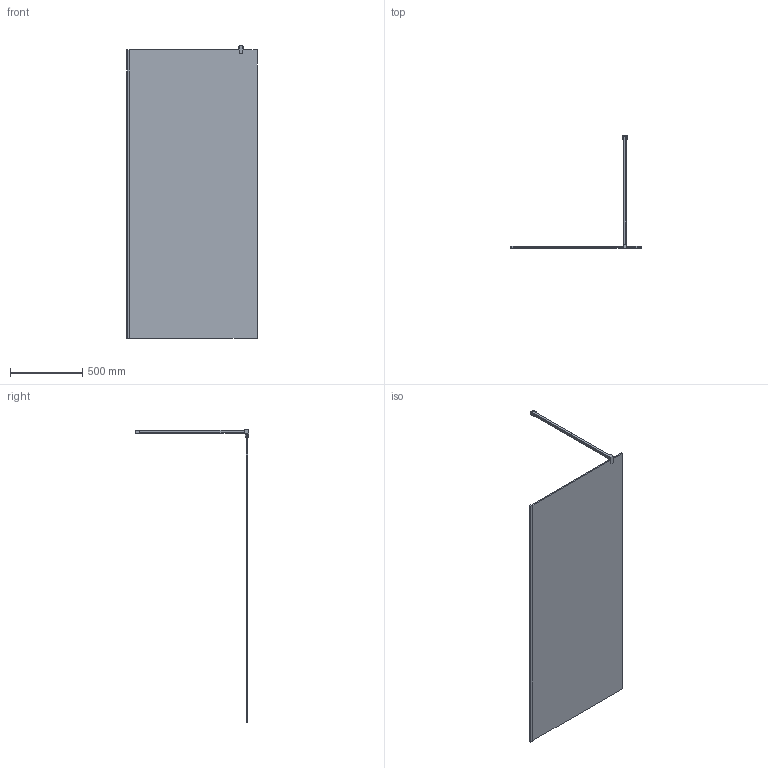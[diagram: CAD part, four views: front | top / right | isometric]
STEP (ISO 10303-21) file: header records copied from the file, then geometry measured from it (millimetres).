
FILE_DESCRIPTION(/* description */ (''),/* implementation_level */ '2;1');
FILE_NAME(/* name */ 'D:\17\ЭГ Перегородки\WALK-IN P008STB\WALK-IN P008STB левая модель\WALK-IN P008STB ЛЕВАЯ-3D.stp',/* time_stamp */ '2022-03-01T21:21:28+03:00',/* author */ ('User'),/* organization */ (''),/* preprocessor_version */ 'ST-DEVELOPER v15.2',/* originating_system */ 'Autodesk Inventor 2014',/* authorisation */ '');
FILE_SCHEMA (('CONFIG_CONTROL_DESIGN'));
Length unit declared in the file: millimetre
Products named in the file (1): WALK-IN P008STB ЛЕВАЯ-3D
Bounding box: 903.5 x 789 x 2032 mm (x, y, z)
Volume: 14897233.6 mm3; surface area: 3785194.2 mm2
Topology: 1 solids, 1 shells, 57 faces, 157 edges, 102 vertices
Faces by surface type: plane 43, cylinder 14
Entity records: 1905 total; most frequent: CARTESIAN_POINT 317, ORIENTED_EDGE 314, DIRECTION 301, EDGE_CURVE 157, LINE 129, VECTOR 129, VERTEX_POINT 102, AXIS2_PLACEMENT_3D 86
